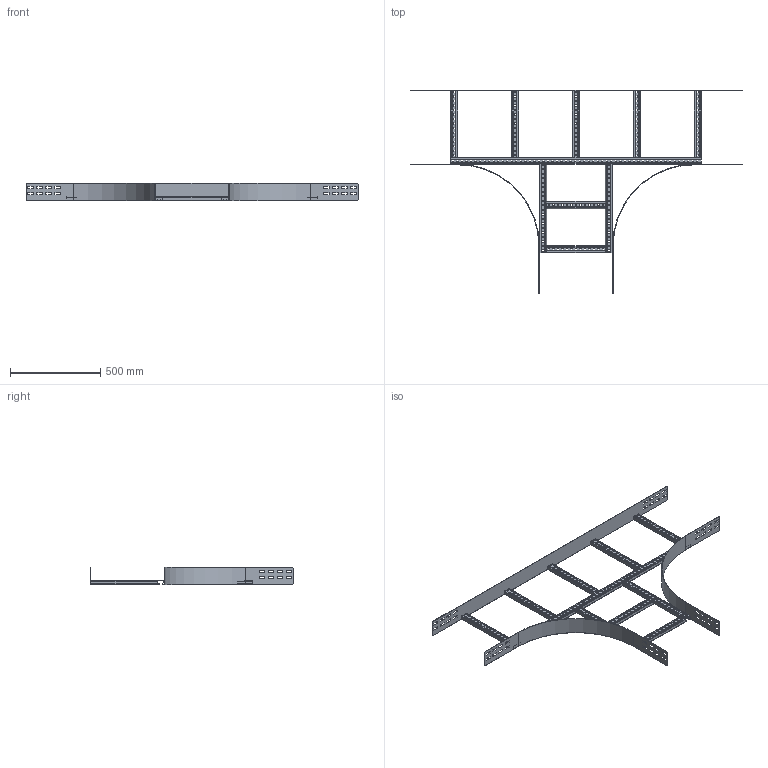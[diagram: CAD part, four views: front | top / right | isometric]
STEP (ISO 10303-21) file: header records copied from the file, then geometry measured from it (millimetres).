
FILE_DESCRIPTION(('Creo Elements/Direct Modeling STEP Export'),'2;1');
FILE_NAME('WPTP10-40-45.stp','2016-06-03T 7:33:05',(''),(''),'PTC Creo Elements/Direct Modeling STEP processor for AP214 (Solid Model)','PTC Creo Elements/Direct Modeling 19.0C 15-Aug-2015 (C) Parametric Technology GmbH','');
FILE_SCHEMA(('AUTOMOTIVE_DESIGN { 1 0 10303 214 1 1 1 1 }'));
Length unit declared in the file: millimetre
Products named in the file (7): WPKSP1-40; WPTPS40.2.1.1; WPBI_100; WPKS40.1; WPKSP2_300.1; WPAAG_100-40; WPTP10-40-45
Assembly tree (13 placements, depth 2):
  WPTP10-40-45
    WPTPS40.2.1.1  x5
    WPKSP2_300.1  x2
    WPKS40.1  x2
    WPAAG_100-40
    WPBI_100  x2
    WPKSP1-40
Bounding box: 1835 x 1123 x 95 mm (x, y, z)
Volume: 1886659.5 mm3; surface area: 1803109.8 mm2
Topology: 13 solids, 13 shells, 1432 faces, 4218 edges, 2812 vertices
Faces by surface type: plane 840, cylinder 592
Entity records: 25153 total; most frequent: CARTESIAN_POINT 4326, ORIENTED_EDGE 4320, DIRECTION 4194, EDGE_CURVE 2160, VECTOR 1578, LINE 1578, VERTEX_POINT 1440, AXIS2_PLACEMENT_3D 1308
